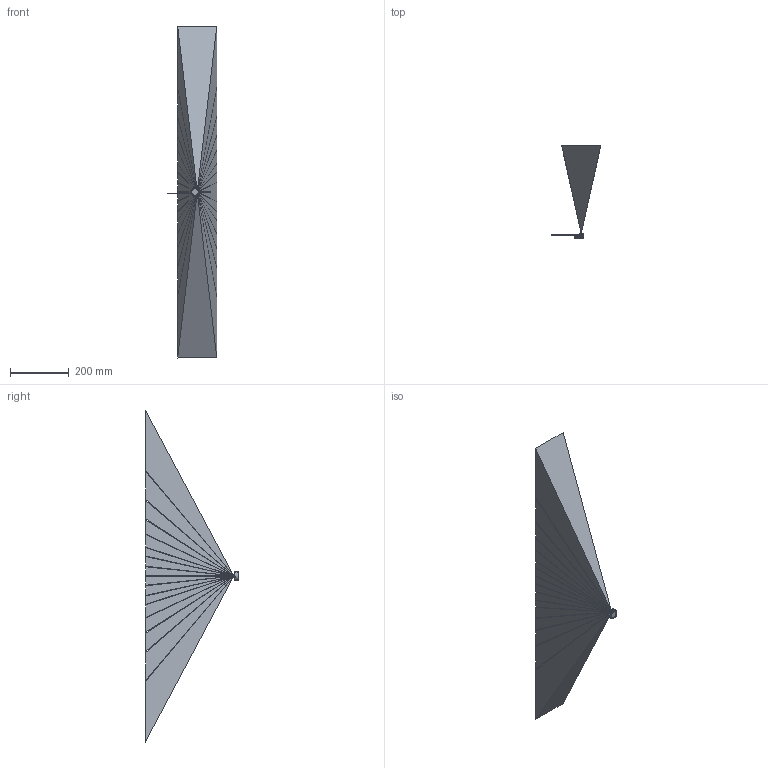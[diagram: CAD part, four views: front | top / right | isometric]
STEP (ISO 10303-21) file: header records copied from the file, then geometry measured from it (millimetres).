
FILE_DESCRIPTION((''),'2;1');
FILE_NAME('W_IRTS_V1_ASSEMBLY_ASM_2_ASM','2020-02-21T13:39:22',('caleb'),(''),'CREO PARAMETRIC BY PTC INC, 2018190','CREO PARAMETRIC BY PTC INC, 2018190','');
FILE_SCHEMA(('CONFIG_CONTROL_DESIGN'));
Length unit declared in the file: millimetre
Products named in the file (6): _ASM0003_ASM_1_1; _ASM0003_ASM_1_2; _ASM0003_ASM_1_3; _ASM0003_ASM_1_ASM; ASM0004_ASM_1_ASM; W_IRTS_V1_ASSEMBLY_ASM_2_ASM
Assembly tree (5 placements, depth 4):
  W_IRTS_V1_ASSEMBLY_ASM_2_ASM
    ASM0004_ASM_1_ASM
      _ASM0003_ASM_1_ASM
        _ASM0003_ASM_1_1
        _ASM0003_ASM_1_2
        _ASM0003_ASM_1_3
Bounding box: 168.55 x 316.65 x 1131 mm (x, y, z)
Surface area: 1125225.2 mm2
Topology: 2 solids, 8 shells, 395 faces, 1128 edges, 740 vertices
Faces by surface type: plane 146, cylinder 114, cone 55, bspline 49, torus 31
Entity records: 21322 total; most frequent: CARTESIAN_POINT 11352, ORIENTED_EDGE 2131, DIRECTION 1936, EDGE_CURVE 1124, AXIS2_PLACEMENT_3D 759, VERTEX_POINT 740, EDGE_LOOP 427, VECTOR 418
